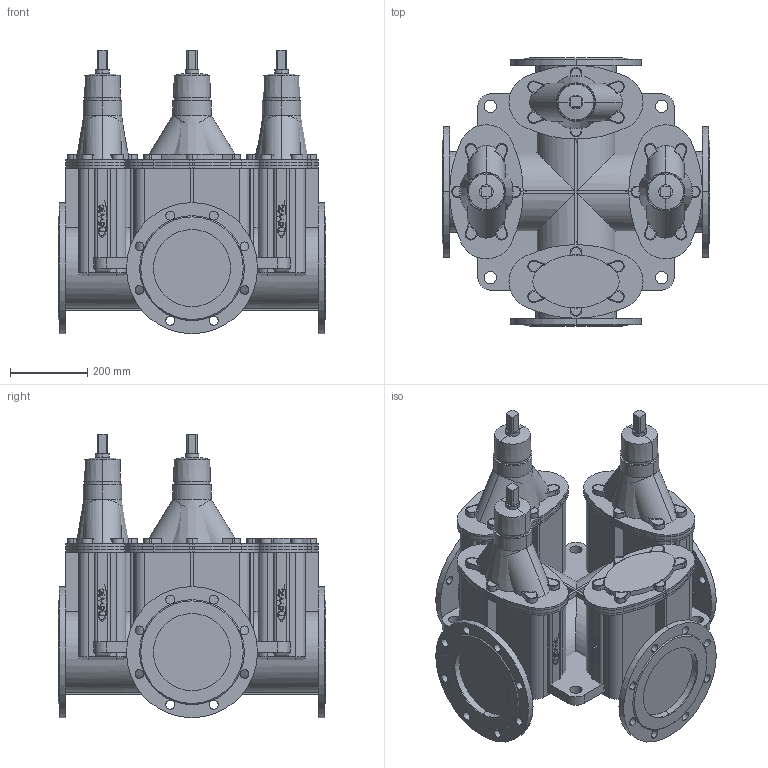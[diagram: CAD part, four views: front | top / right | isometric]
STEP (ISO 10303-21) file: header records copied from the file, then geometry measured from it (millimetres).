
FILE_DESCRIPTION(('STEP AP214'),'1');
FILE_NAME('S:/EK/USER/CAT6/3DHomepage_27-04-2012/neu_10-04-2013/4400E2/4400E2_PN10_DN200_3_9-12-3-B.STP','2013-04-10T12:39:45',(' '),(' '),'Spatial InterOp 3D',' ',' ');
FILE_SCHEMA(('automotive_design'));
Length unit declared in the file: millimetre
Products named in the file (194): 3D-Objekt
Bounding box: 695 x 695 x 735 mm (x, y, z)
Volume: 107025484.4 mm3; surface area: 6276305.2 mm2
Topology: 194 solids, 194 shells, 1836 faces, 4310 edges, 2870 vertices
Faces by surface type: plane 986, cylinder 792, cone 26, bspline 16, torus 16
Entity records: 72674 total; most frequent: DIRECTION 10050, CARTESIAN_POINT 9482, ORIENTED_EDGE 8620, EDGE_CURVE 4310, AXIS2_PLACEMENT_3D 3726, VERTEX_POINT 2870, LINE 2598, VECTOR 2598
